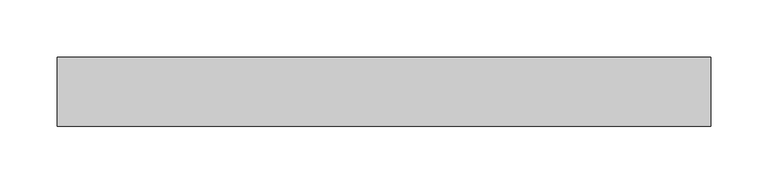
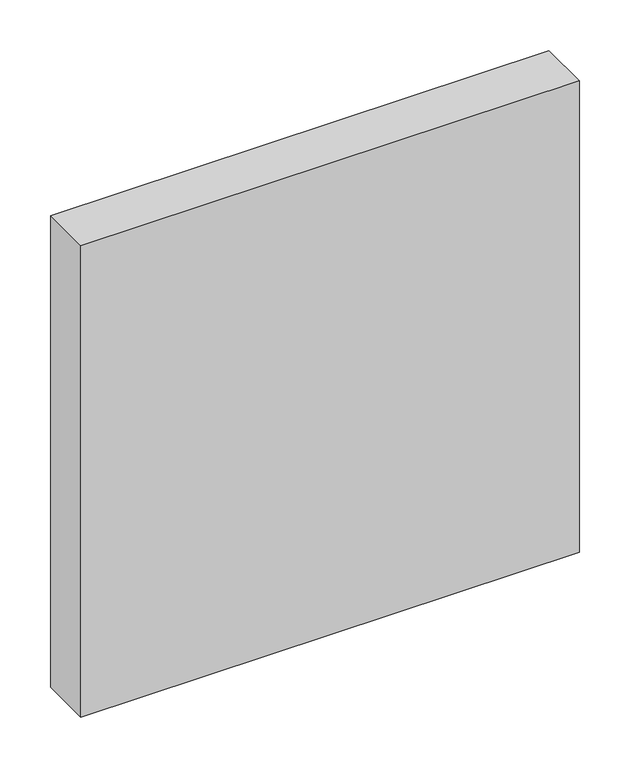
"""IFC4 building model written with IfcOpenShell, lengths in millimetres: plate geometry, Системная панель : Алюкобонд красный."""

import ifcopenshell
import ifcopenshell.guid

model = None  # the IFC model being written
_history = None  # IfcOwnerHistory: only IFC2X3 demands one
_inside = {}  # id of a spatial element -> (the spatial element, [elements in it])
_under = {}  # id of a project, library or spatial element -> (it, [spatial elements below it])
_declared = {}  # id of a project -> (the project, [libraries it declares])
_typed = {}  # id of a type object -> (the type object, [elements of that type])
_made_of = {}  # id of a material, layer set ... -> (it, [elements and type objects made of it])


def new_model(schema):
    """Start an empty IFC model of exactly this schema.

    Asked for "IFC4X3", IfcOpenShell would pick the latest addendum, in which some entities
    have other attributes; the version numbers below select the first issue.
    IFC2X3 requires an IfcOwnerHistory on every rooted entity: one is made here for all.
    """
    global model, _history
    if schema == "IFC4X3":
        model = ifcopenshell.file(schema_version=(4, 3, 0, 0))
    else:
        model = ifcopenshell.file(schema=schema)
    _inside.clear()
    _under.clear()
    _declared.clear()
    _typed.clear()
    _made_of.clear()
    _history = None
    if model.schema == "IFC2X3":
        org = make("IfcOrganization", Name="unknown")
        user = make(
            "IfcPersonAndOrganization",
            ThePerson=make("IfcPerson", FamilyName="unknown"),
            TheOrganization=org,
        )
        app = make(
            "IfcApplication",
            ApplicationDeveloper=org,
            Version="unknown",
            ApplicationFullName="unknown",
            ApplicationIdentifier="unknown",
        )
        _history = make(
            "IfcOwnerHistory",
            OwningUser=user,
            OwningApplication=app,
            ChangeAction="ADDED",
            CreationDate=0,
        )
    return model


def make(cls, **values):
    """One entity of the class cls with the attributes given. An attribute that is None is left unset."""
    return model.create_entity(
        cls, **{name: value for name, value in values.items() if value is not None}
    )


def rooted(cls, **values):
    """An entity with a GlobalId (a new one), such as an element, a storey or a relation."""
    return make(cls, GlobalId=ifcopenshell.guid.new(), OwnerHistory=_history, **values)


def si_unit(unit_type, name, prefix=None):
    """IfcSIUnit, for example si_unit("LENGTHUNIT", "METRE", prefix="MILLI")."""
    return make("IfcSIUnit", UnitType=unit_type, Prefix=prefix, Name=name)


def assignment(units):
    """IfcUnitAssignment: the units of a project."""
    return None if units is None else make("IfcUnitAssignment", Units=units)


def point(xyz):
    """IfcCartesianPoint."""
    return None if xyz is None else make("IfcCartesianPoint", Coordinates=xyz)


def direction(xyz):
    """IfcDirection."""
    return None if xyz is None else make("IfcDirection", DirectionRatios=xyz)


def frame(location, z_axis=None, x_axis=None):
    """IfcAxis2Placement3D, a coordinate frame: its origin and axes. An axis left out is left unset."""
    return make(
        "IfcAxis2Placement3D",
        Location=point(location),
        Axis=direction(z_axis),
        RefDirection=direction(x_axis),
    )


def origin():
    """The frame at (0, 0, 0) with its axes left unset."""
    return frame((0.0, 0.0, 0.0))


def origin_with_axes():
    """The frame at (0, 0, 0) with the z axis (0, 0, 1) and the x axis (1, 0, 0) written out."""
    return frame((0.0, 0.0, 0.0), z_axis=(0.0, 0.0, 1.0), x_axis=(1.0, 0.0, 0.0))


def place(relative_to, where):
    """IfcLocalPlacement: puts the frame where relative to a parent placement (None: the world)."""
    return make(
        "IfcLocalPlacement", PlacementRelTo=relative_to, RelativePlacement=where
    )


def context(
    kind, dimensions, precision=None, world=None, true_north=None, identifier=None
):
    """IfcGeometricRepresentationContext, for example the 3D "Model" context."""
    return make(
        "IfcGeometricRepresentationContext",
        ContextIdentifier=identifier,
        ContextType=kind,
        CoordinateSpaceDimension=dimensions,
        Precision=precision,
        WorldCoordinateSystem=world,
        TrueNorth=true_north,
    )


def project(units=None, contexts=None):
    """IfcProject with its units and contexts."""
    return rooted(
        "IfcProject",
        Name="project",
        RepresentationContexts=contexts,
        UnitsInContext=assignment(units),
    )


def spatial(cls, under=None, at=None, **own):
    """A site, building, storey or space (cls), placed at a placement, below another one or the project."""
    s = rooted(cls, ObjectPlacement=at, **own)
    if under is not None:
        _under.setdefault(under.id(), (under, []))[1].append(s)
    return s


def polyline(points):
    """IfcPolyline through the points."""
    return make("IfcPolyline", Points=[point(p) for p in points])


def outline(outer, holes=None, kind="AREA"):
    """IfcArbitraryClosedProfileDef: a profile drawn as a closed curve; with holes, ...WithVoids."""
    if holes is None:
        return make("IfcArbitraryClosedProfileDef", ProfileType=kind, OuterCurve=outer)
    return make(
        "IfcArbitraryProfileDefWithVoids",
        ProfileType=kind,
        OuterCurve=outer,
        InnerCurves=holes,
    )


def extrude(swept, where, along, depth):
    """IfcExtrudedAreaSolid: the profile swept, set in the frame where, extruded along a direction by depth."""
    return make(
        "IfcExtrudedAreaSolid",
        SweptArea=swept,
        Position=where,
        ExtrudedDirection=direction(along),
        Depth=depth,
    )


def shape(context_of_items, identifier, shape_type, items):
    """IfcShapeRepresentation: the items that make up one representation, for example the "Body"."""
    return make(
        "IfcShapeRepresentation",
        ContextOfItems=context_of_items,
        RepresentationIdentifier=identifier,
        RepresentationType=shape_type,
        Items=items,
    )


def source(mapping_origin, context_of_items, identifier, shape_type, items):
    """IfcRepresentationMap: a shape defined once, which mapped items show again and again."""
    return make(
        "IfcRepresentationMap",
        MappingOrigin=mapping_origin,
        MappedRepresentation=shape(context_of_items, identifier, shape_type, items),
    )


def transform(
    local_origin,
    x_axis=None,
    y_axis=None,
    z_axis=None,
    scale=None,
    scale2=None,
    scale3=None,
    uniform=True,
):
    """IfcCartesianTransformationOperator3D, or its non-uniform kind. x_axis, y_axis, z_axis: its Axis1, 2, 3."""
    if uniform:
        return make(
            "IfcCartesianTransformationOperator3D",
            Axis1=direction(x_axis),
            Axis2=direction(y_axis),
            LocalOrigin=point(local_origin),
            Scale=scale,
            Axis3=direction(z_axis),
        )
    return make(
        "IfcCartesianTransformationOperator3DnonUniform",
        Axis1=direction(x_axis),
        Axis2=direction(y_axis),
        LocalOrigin=point(local_origin),
        Scale=scale,
        Axis3=direction(z_axis),
        Scale2=scale2,
        Scale3=scale3,
    )


def mapped(mapping_source, mapping_target):
    """IfcMappedItem: shows the shape of a source again, moved by a transform."""
    return make(
        "IfcMappedItem", MappingSource=mapping_source, MappingTarget=mapping_target
    )


def made_of(thing, what):
    """Note that an element or type object is made of a material, layer set ...; save() writes the relation."""
    if what is not None:
        _made_of.setdefault(what.id(), (what, []))[1].append(thing)
    return thing


def element(
    cls,
    number,
    at=None,
    inside=None,
    cuts=None,
    type_object=None,
    material=None,
    context=None,
    identifier="Body",
    shape_type=None,
    held_by="IfcProductDefinitionShape",
    body=None,
    shapes=None,
    **own,
):
    """One element of the class cls, such as IfcWall. Its Tag is "e" and its number.

    at: its placement. inside: the storey or other place that contains it. cuts: it is an
    opening in that element (IfcRelVoidsElement). A single representation is given by context,
    identifier, shape_type and body (its items); several are given by shapes. held_by: the class
    of the entity that holds the representations. save() writes the other relations.
    """
    e = rooted(cls, Tag="e%d" % number, ObjectPlacement=at, **own)
    if body is not None:
        shapes = [shape(context, identifier, shape_type, body)]
    if shapes is not None:
        e.Representation = make(held_by, Representations=shapes)
    if inside is not None:
        _inside.setdefault(inside.id(), (inside, []))[1].append(e)
    if cuts is not None:
        rooted(
            "IfcRelVoidsElement", RelatingBuildingElement=cuts, RelatedOpeningElement=e
        )
    if type_object is not None:
        _typed.setdefault(type_object.id(), (type_object, []))[1].append(e)
    return made_of(e, material)


def aggregate(whole, parts):
    """IfcRelAggregates: a whole, such as a stair, and the parts it consists of."""
    return rooted("IfcRelAggregates", RelatingObject=whole, RelatedObjects=parts)


def save(model, path):
    """Write the relations noted so far, then the file.

    IfcRelAggregates (storeys below a building ...), IfcRelContainedInSpatialStructure (elements
    in a storey), IfcRelDefinesByType, IfcRelAssociatesMaterial and IfcRelDeclares: one each for
    every whole, place, type object, material and project.
    """
    for whole, parts in _under.values():
        aggregate(whole, parts)
    for where, things in _inside.values():
        rooted(
            "IfcRelContainedInSpatialStructure",
            RelatedElements=things,
            RelatingStructure=where,
        )
    for kind, things in _typed.values():
        rooted("IfcRelDefinesByType", RelatedObjects=things, RelatingType=kind)
    for what, things in _made_of.values():
        rooted("IfcRelAssociatesMaterial", RelatedObjects=things, RelatingMaterial=what)
    for by, libraries in _declared.values():
        rooted("IfcRelDeclares", RelatingContext=by, RelatedDefinitions=libraries)
    model.write(path)


def plate_f36d7629(model_context):
    return source(origin(), model_context, "Body", "SweptSolid", [
        extrude(outline(polyline([(285.0, -10.5), (-285.0, -10.5), (-285.0, 49.5), (285.0, 49.5), (285.0, -10.5)])), origin_with_axes(), (0.0, 0.0, 1.0), 570.0),
    ])


if __name__ == "__main__":
    model = new_model("IFC4")
    model_context = context("Model", 3, world=origin())
    ifc_project = project(units=[si_unit("LENGTHUNIT", "METRE", prefix="MILLI")], contexts=[model_context])
    site = spatial("IfcSite", under=ifc_project)
    building = spatial("IfcBuilding", under=site)
    placement = place(None, origin())
    plate_shape = plate_f36d7629(model_context)
    element("IfcPlate", 1, ObjectType="Системная панель : Алюкобонд красный", at=placement, inside=building, context=model_context, shape_type="MappedRepresentation", body=[
        mapped(plate_shape, transform((0.0, 0.0, 0.0), x_axis=(1.0, 0.0, 0.0), y_axis=(0.0, 1.0, 0.0), z_axis=(0.0, 0.0, 1.0))),
    ])
    save(model, "model.ifc")
